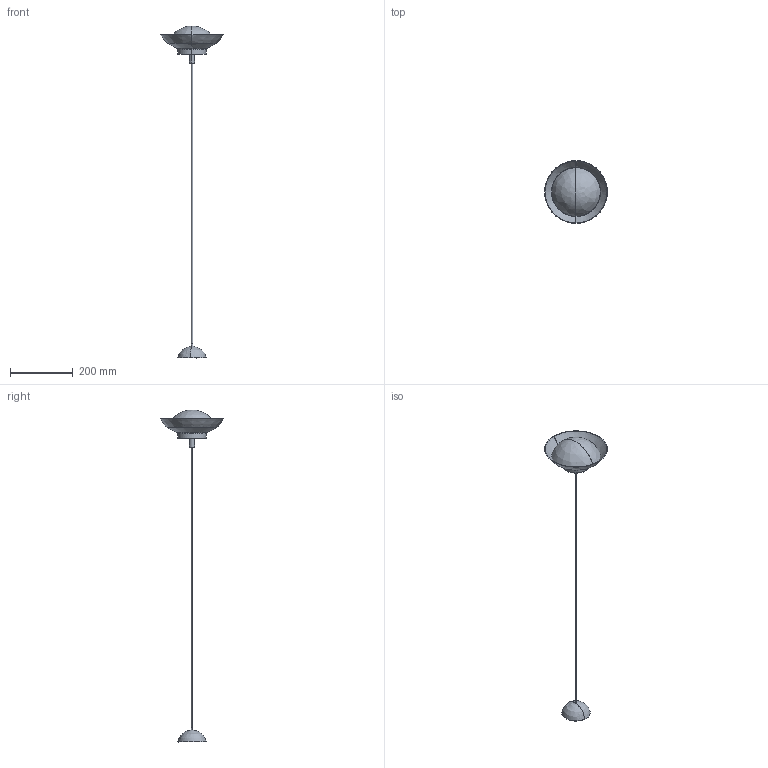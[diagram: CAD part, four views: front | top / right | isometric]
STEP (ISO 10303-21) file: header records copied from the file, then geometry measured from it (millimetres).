
FILE_DESCRIPTION(/* description */ (''),/* implementation_level */ '2;1');
FILE_NAME(/* name */ 'C:\Users\francosartori\Documents\Modelos\01_Digitalizados\0_SIDE\03_Publicación\62136.stp',/* time_stamp */ '2020-06-18T14:09:42+02:00',/* author */ ('FrancoSartori'),/* organization */ (''),/* preprocessor_version */ 'ST-DEVELOPER v18.1',/* originating_system */ 'AutoCAD Mechanical',/* authorisation */ '');
FILE_SCHEMA (('AUTOMOTIVE_DESIGN { 1 0 10303 214 3 1 1 }'));
Length unit declared in the file: millimetre
Products named in the file (3): Product; 62136_62137_62138_62139_support - SIDE-468202-_3D_; 62136_62137_62138_62139_lamp - SIDE Lamp-468204-_3D_
Assembly tree (2 placements, depth 2):
  Product
    62136_62137_62138_62139_support - SIDE-468202-_3D_
    62136_62137_62138_62139_lamp - SIDE Lamp-468204-_3D_
Bounding box: 200 x 200 x 1055.51 mm (x, y, z)
Volume: 136141.2 mm3; surface area: 223903.9 mm2
Topology: 5 solids, 5 shells, 56 faces, 108 edges, 54 vertices
Faces by surface type: plane 20, bspline 16, cylinder 14, torus 4, cone 2
Entity records: 2977 total; most frequent: CARTESIAN_POINT 1870, DIRECTION 226, ORIENTED_EDGE 208, EDGE_CURVE 104, AXIS2_PLACEMENT_3D 97, FACE_OUTER_BOUND 56, EDGE_LOOP 56, ADVANCED_FACE 56
